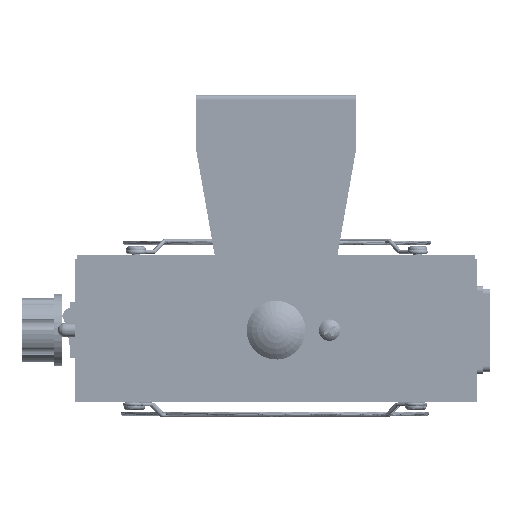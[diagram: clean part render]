
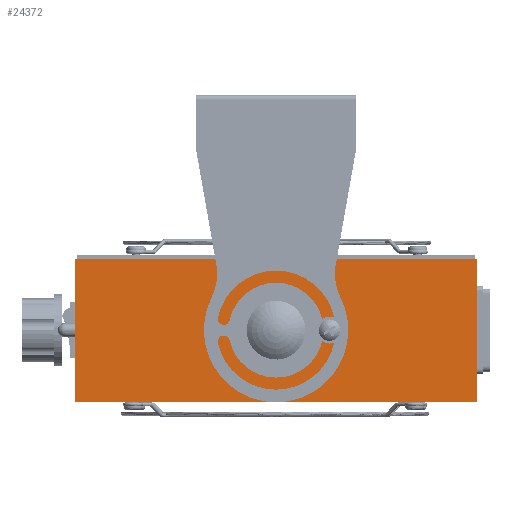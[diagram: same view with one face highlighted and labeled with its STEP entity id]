
A CAD part, front view. The second image highlights one B-rep face of the part: STEP entity #24372.
In plain terms, the highlighted planar face has unit normal (0, -1, 0).
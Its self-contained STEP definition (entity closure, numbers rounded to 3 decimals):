
#600 = EDGE_CURVE ( 'NONE', #40345, #10805, #28273, .T. ) ;
#1606 = CARTESIAN_POINT ( 'NONE',  ( 95., 0., 23.25 ) ) ;
#1992 = AXIS2_PLACEMENT_3D ( 'NONE', #22966, #2853, #8881 ) ;
#2322 = EDGE_CURVE ( 'NONE', #5544, #16562, #34111, .T. ) ;
#2853 = DIRECTION ( 'NONE',  ( 0., 1., 0. ) ) ;
#4955 = DIRECTION ( 'NONE',  ( 0., 0., -1. ) ) ;
#5278 = ORIENTED_EDGE ( 'NONE', *, *, #2322, .F. ) ;
#5393 = LINE ( 'NONE', #15601, #24950 ) ;
#5544 = VERTEX_POINT ( 'NONE', #29057 ) ;
#5548 = DIRECTION ( 'NONE',  ( 1., 0., 0. ) ) ;
#5745 = VECTOR ( 'NONE', #41583, 1000. ) ;
#6078 = CARTESIAN_POINT ( 'NONE',  ( 75., 0., 26.75 ) ) ;
#6093 = DIRECTION ( 'NONE',  ( 0., -1., 0. ) ) ;
#6139 = ORIENTED_EDGE ( 'NONE', *, *, #34981, .T. ) ;
#7149 = FACE_OUTER_BOUND ( 'NONE', #31340, .T. ) ;
#7224 = CARTESIAN_POINT ( 'NONE',  ( 0., 0., 53.5 ) ) ;
#8881 = DIRECTION ( 'NONE',  ( 0., 0., 1. ) ) ;
#9122 = EDGE_LOOP ( 'NONE', ( #18844, #6139 ) ) ;
#9217 = EDGE_LOOP ( 'NONE', ( #5278, #34956 ) ) ;
#9369 = DIRECTION ( 'NONE',  ( 0., 0., 1. ) ) ;
#9450 = AXIS2_PLACEMENT_3D ( 'NONE', #33273, #6093, #26587 ) ;
#10805 = VERTEX_POINT ( 'NONE', #34463 ) ;
#12146 = VERTEX_POINT ( 'NONE', #7224 ) ;
#12609 = CARTESIAN_POINT ( 'NONE',  ( 0., 0., 53.5 ) ) ;
#13272 = CARTESIAN_POINT ( 'NONE',  ( 0., 0., 0. ) ) ;
#13991 = DIRECTION ( 'NONE',  ( 0., 1., 0. ) ) ;
#14671 = VERTEX_POINT ( 'NONE', #42211 ) ;
#15601 = CARTESIAN_POINT ( 'NONE',  ( 0., 0., 53.5 ) ) ;
#15725 = AXIS2_PLACEMENT_3D ( 'NONE', #20758, #13991, #34560 ) ;
#16562 = VERTEX_POINT ( 'NONE', #20070 ) ;
#16744 = CARTESIAN_POINT ( 'NONE',  ( 150., 0., 53.5 ) ) ;
#18121 = AXIS2_PLACEMENT_3D ( 'NONE', #33250, #30356, #9369 ) ;
#18489 = ORIENTED_EDGE ( 'NONE', *, *, #24620, .F. ) ;
#18844 = ORIENTED_EDGE ( 'NONE', *, *, #19163, .T. ) ;
#19163 = EDGE_CURVE ( 'NONE', #43736, #24899, #20299, .T. ) ;
#20070 = CARTESIAN_POINT ( 'NONE',  ( 75., 0., 15.85 ) ) ;
#20299 = CIRCLE ( 'NONE', #18121, 3.5 ) ;
#20487 = CARTESIAN_POINT ( 'NONE',  ( 95., 0., 30.25 ) ) ;
#20758 = CARTESIAN_POINT ( 'NONE',  ( 0., 0., 53.5 ) ) ;
#21616 = ORIENTED_EDGE ( 'NONE', *, *, #35586, .T. ) ;
#22369 = DIRECTION ( 'NONE',  ( 0., -1., 0. ) ) ;
#22966 = CARTESIAN_POINT ( 'NONE',  ( 95., 0., 26.75 ) ) ;
#24372 = ADVANCED_FACE ( 'NONE', ( #37660, #30344, #7149 ), #31002, .F. ) ;
#24620 = EDGE_CURVE ( 'NONE', #12146, #40345, #26054, .T. ) ;
#24899 = VERTEX_POINT ( 'NONE', #1606 ) ;
#24950 = VECTOR ( 'NONE', #4955, 1000. ) ;
#26054 = LINE ( 'NONE', #12609, #35793 ) ;
#26587 = DIRECTION ( 'NONE',  ( 0., 0., 1. ) ) ;
#28273 = LINE ( 'NONE', #41779, #5745 ) ;
#28474 = ORIENTED_EDGE ( 'NONE', *, *, #43319, .T. ) ;
#28829 = ORIENTED_EDGE ( 'NONE', *, *, #600, .F. ) ;
#29057 = CARTESIAN_POINT ( 'NONE',  ( 75., 0., 37.65 ) ) ;
#30344 = FACE_BOUND ( 'NONE', #9217, .T. ) ;
#30356 = DIRECTION ( 'NONE',  ( 0., 1., 0. ) ) ;
#30730 = DIRECTION ( 'NONE',  ( 1., 0., 0. ) ) ;
#31002 = PLANE ( 'NONE',  #15725 ) ;
#31281 = EDGE_CURVE ( 'NONE', #16562, #5544, #37949, .T. ) ;
#31284 = VECTOR ( 'NONE', #30730, 1000. ) ;
#31340 = EDGE_LOOP ( 'NONE', ( #21616, #28829, #18489, #28474 ) ) ;
#32697 = AXIS2_PLACEMENT_3D ( 'NONE', #6078, #22369, #42745 ) ;
#33175 = LINE ( 'NONE', #13272, #31284 ) ;
#33250 = CARTESIAN_POINT ( 'NONE',  ( 95., 0., 26.75 ) ) ;
#33273 = CARTESIAN_POINT ( 'NONE',  ( 75., 0., 26.75 ) ) ;
#34111 = CIRCLE ( 'NONE', #32697, 10.9 ) ;
#34463 = CARTESIAN_POINT ( 'NONE',  ( 150., 0., 0. ) ) ;
#34560 = DIRECTION ( 'NONE',  ( 0., 0., 1. ) ) ;
#34956 = ORIENTED_EDGE ( 'NONE', *, *, #31281, .F. ) ;
#34981 = EDGE_CURVE ( 'NONE', #24899, #43736, #40399, .T. ) ;
#35586 = EDGE_CURVE ( 'NONE', #14671, #10805, #33175, .T. ) ;
#35793 = VECTOR ( 'NONE', #5548, 1000. ) ;
#37660 = FACE_BOUND ( 'NONE', #9122, .T. ) ;
#37949 = CIRCLE ( 'NONE', #9450, 10.9 ) ;
#40345 = VERTEX_POINT ( 'NONE', #16744 ) ;
#40399 = CIRCLE ( 'NONE', #1992, 3.5 ) ;
#41583 = DIRECTION ( 'NONE',  ( 0., 0., -1. ) ) ;
#41779 = CARTESIAN_POINT ( 'NONE',  ( 150., 0., 53.5 ) ) ;
#42211 = CARTESIAN_POINT ( 'NONE',  ( 0., 0., 0. ) ) ;
#42745 = DIRECTION ( 'NONE',  ( 0., 0., 1. ) ) ;
#43319 = EDGE_CURVE ( 'NONE', #12146, #14671, #5393, .T. ) ;
#43736 = VERTEX_POINT ( 'NONE', #20487 ) ;
